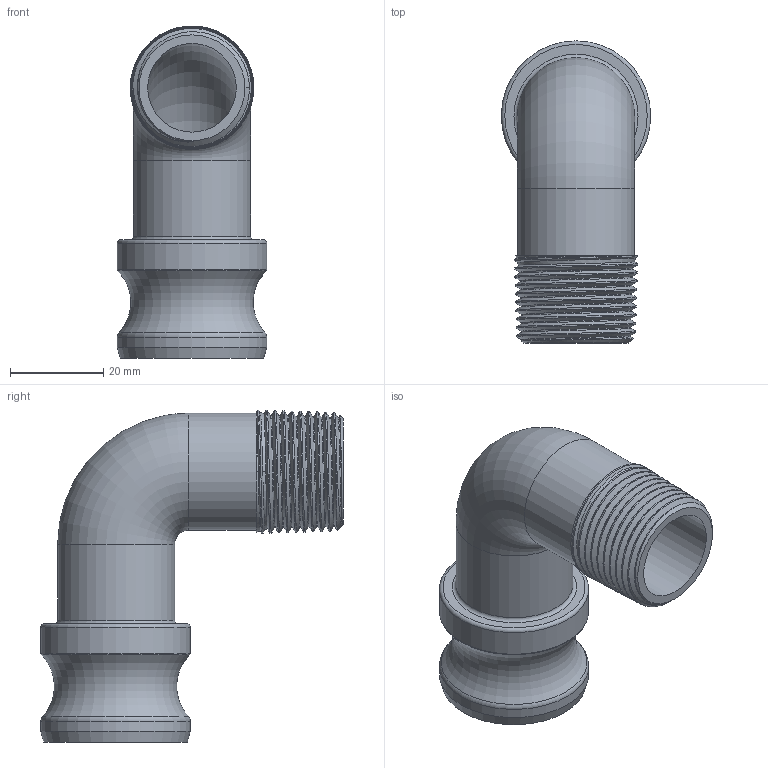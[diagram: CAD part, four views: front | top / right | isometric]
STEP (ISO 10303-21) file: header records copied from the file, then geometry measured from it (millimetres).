
FILE_DESCRIPTION(/* description */ ('Alibre Inc.'),/* implementation_level */ '2;1');
FILE_NAME(/* name */ 'export0',/* time_stamp */ '2016-11-29T11:38:17-05:00',/* author */ (''),/* organization */ (''),/* preprocessor_version */ 'ST-DEVELOPER v14',/* originating_system */ 'Alibre',/* authorisation */ '');
FILE_SCHEMA (('CONFIG_CONTROL_DESIGN'));
Length unit declared in the file: centimetre
Products named in the file (1): ID_1
Bounding box: 32.11 x 64.95 x 71.31 mm (x, y, z)
Volume: 24985 mm3; surface area: 16318.5 mm2
Topology: 1 solids, 1 shells, 53 faces, 135 edges, 86 vertices
Faces by surface type: cone 33, cylinder 7, torus 6, plane 4, bspline 3
Full cylindrical faces by diameter (mm): 19.05 x2, 21.209 x1, 25.146 x2, 32.106 x2
Entity records: 22906 total; most frequent: CARTESIAN_POINT 21741, ORIENTED_EDGE 230, DIRECTION 171, EDGE_CURVE 115, VERTEX_POINT 83, AXIS2_PLACEMENT_3D 77, EDGE_LOOP 74, FACE_BOUND 74
